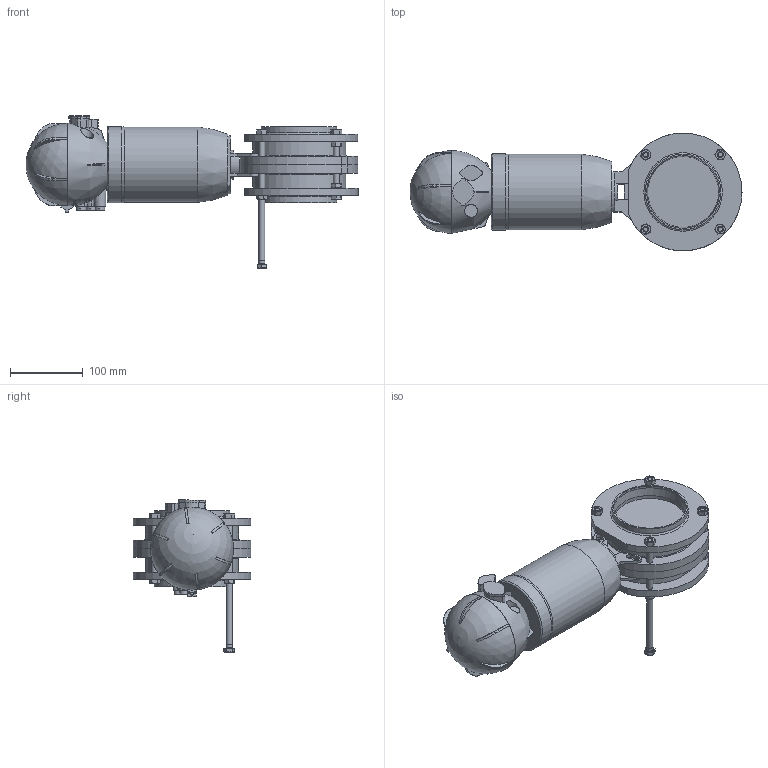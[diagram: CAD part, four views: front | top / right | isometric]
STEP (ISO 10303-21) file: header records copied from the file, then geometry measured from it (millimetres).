
FILE_DESCRIPTION(/* description */ ('ZVF V.FARF.DN100(104X2) WAF4 MACH98 SENC 316 EPDM'),/* implementation_level */ '2;1');
FILE_NAME(/* name */ 'C:\_DED_PWS\MARZ-M\DB\B\EAA\BEAAC6100BEBF-00^SAGOMA.step',/* time_stamp */ '2025-07-22T10:42:03+02:00',/* author */ (''),/* organization */ (''),/* preprocessor_version */ 'ST-DEVELOPER v20',/* originating_system */ 'Autodesk Inventor 2022',/* authorisation */ '');
FILE_SCHEMA (('CONFIG_CONTROL_DESIGN'));
Length unit declared in the file: millimetre
Products named in the file (8): BEAAC6100BEBF; MEZZO-COR-DN100-WAFER-4; FLANGIA-DN104x2-WAFER-4; MACH98; Supporto-farf-DN80-100-; 3DAAJGIOAA007; ISO 8765,M8x1,90,8.8; UNI 5588 - M8
Assembly tree (20 placements, depth 2):
  BEAAC6100BEBF
    FLANGIA-DN104x2-WAFER-4  x2
    MEZZO-COR-DN100-WAFER-4  x2
    UNI 5588 - M8  x8
    ISO 8765,M8x1,90,8.8  x5
    MACH98
    Supporto-farf-DN80-100-
    3DAAJGIOAA007
Bounding box: 456.46 x 161.96 x 209.02 mm (x, y, z)
Volume: 3535726 mm3; surface area: 351009.2 mm2
Topology: 20 solids, 20 shells, 1156 faces, 2976 edges, 1926 vertices
Faces by surface type: plane 780, cone 188, cylinder 117, bspline 53, torus 17, sphere 1
Full cylindrical faces by diameter (mm): 4 x1, 6.2 x8, 6.647 x8, 7 x4, 8 x10, 8.2 x2, 8.5 x10, 13 x4, 18 x1, 26 x1, 32 x1, 97.6 x2, 100 x2, 104 x3, 105 x1, 128 x2
Entity records: 31003 total; most frequent: CARTESIAN_POINT 7308, DIRECTION 5023, ORIENTED_EDGE 4740, EDGE_CURVE 2370, AXIS2_PLACEMENT_3D 2070, VERTEX_POINT 1565, EDGE_LOOP 965, LINE 883
